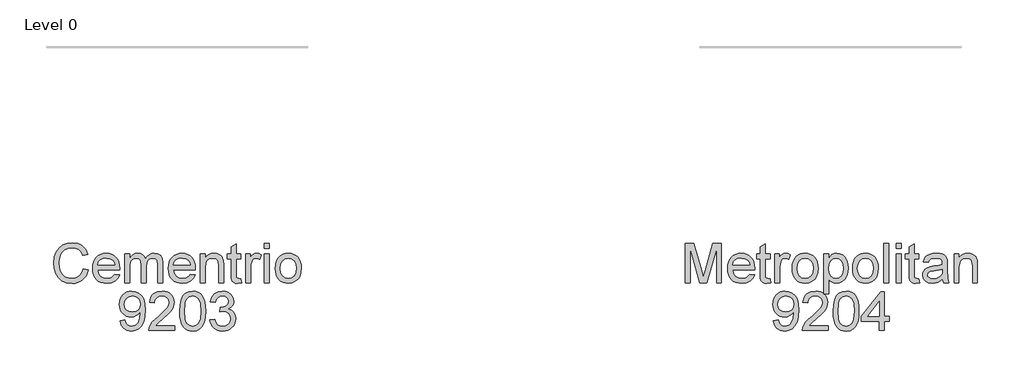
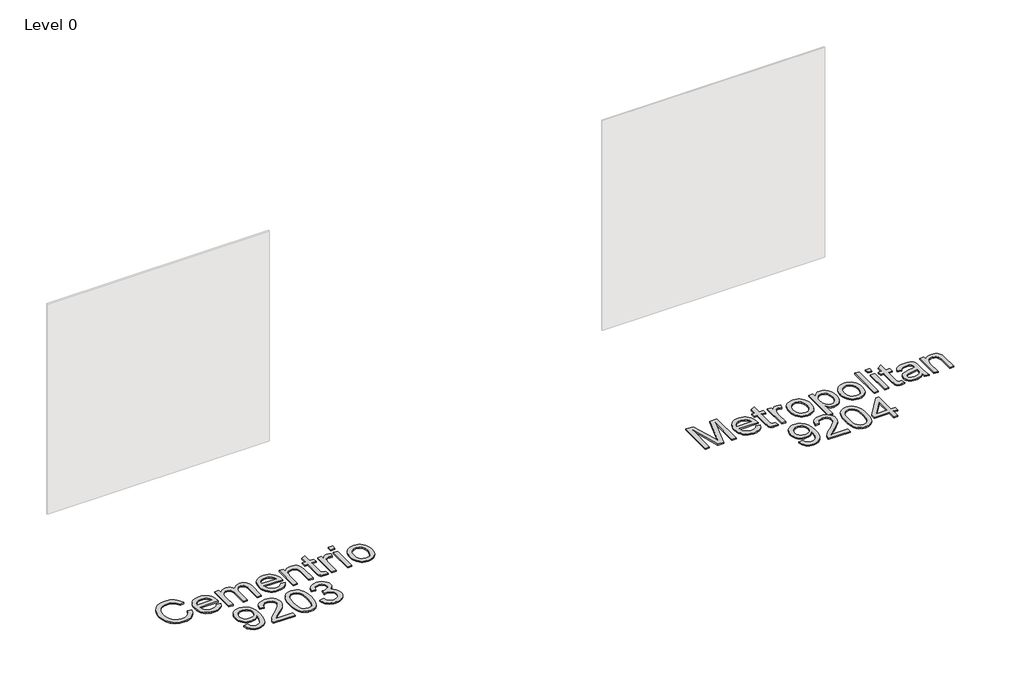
# One storey, part 6 of 8: 2 proxies.
"""IFC4 building model written with IfcOpenShell, lengths in millimetres."""

from ifc_helpers import new_model, si_unit, origin, origin_with_axes, place, context, project, spatial, polyline, outline, extrude, element, save

model = new_model("IFC4")

# Units and contexts
model_context = context("Model", 3, world=origin())
ifc_project = project(units=[si_unit("LENGTHUNIT", "METRE", prefix="MILLI")], contexts=[model_context])

# Site, building, storey
site = spatial("IfcSite", under=ifc_project)
building = spatial("IfcBuilding", under=site)
storey = spatial("IfcBuildingStorey", under=building, Name="Level 0", Elevation=0.0)

# Proxies
placement = place(None, origin())
element("IfcBuildingElementProxy", 1, Name="300mm Arial", ObjectType="300mm Arial", at=placement, inside=storey, context=model_context, shape_type="SweptSolid", body=[
    extrude(outline(polyline([(-168.7637109, -6895.733257), (-131.0925946, -6905.4453417), (-138.5468035, -6928.872527), (-148.4750189, -6949.3428607), (-160.8772406, -6966.856343), (-175.7534688, -6981.4129737), (-192.7680111, -6992.856403), (-211.5851751, -7001.0302811), (-232.204961, -7005.9346079), (-254.6273686, -7007.5693835), (-298.3225525, -7002.6213707), (-333.0230217, -6987.7773322), (-359.62089, -6963.5523028), (-379.0082711, -6930.4613173), (-390.8448743, -6891.5577963), (-394.7904087, -6849.8951604), (-390.3298395, -6805.9516561), (-376.948132, -6768.0046283), (-355.3442618, -6737.2588905), (-326.2172048, -6714.9192564), (-291.6730855, -6701.3168196), (-253.8180282, -6696.782674), (-212.5140772, -6702.6503918), (-194.545341, -6709.9850391), (-178.365431, -6720.2535453), (-164.2410616, -6733.1845974), (-152.4389474, -6748.5068825), (-135.8014841, -6786.3251516), (-173.4726004, -6795.3014723), (-186.5324113, -6767.8298843), (-204.374688, -6748.9851291), (-227.2201599, -6738.086625), (-255.2895562, -6734.4537903), (-287.6447776, -6738.4820981), (-314.2242518, -6750.5670217), (-334.3933822, -6769.439368), (-347.5175723, -6793.8299443), (-354.7188624, -6821.4026999), (-357.1192924, -6849.821584), (-354.277404, -6884.6232207), (-345.7517388, -6914.7159679), (-331.2204, -6938.9501944), (-310.3614908, -6956.1762688), (-285.3547122, -6966.4677676), (-258.3797649, -6969.8982672), (-226.9350514, -6965.2261659), (-200.7326563, -6951.2098619), (-180.949802, -6927.996508), (-168.7637109, -6895.733257)])), origin_with_axes(), (0.0, 0.0, 1.0), 10.0),
    extrude(outline(polyline([(70.9481972, -6936.9360404), (107.8835495, -6941.64493), (94.5754183, -6969.4752029), (73.3394301, -6990.2789297), (44.6538316, -7003.2467701), (8.9968692, -7007.5693835), (-14.3774331, -7005.7046817), (-35.2041525, -7000.1105761), (-53.4832892, -6990.7870668), (-69.214843, -6977.7341537), (-81.8653851, -6961.3151204), (-90.9014866, -6941.8932503), (-96.3231475, -6919.4685435), (-98.1303678, -6894.0409998), (-96.3047534, -6867.7512327), (-90.8279102, -6844.5792656), (-81.6998382, -6824.5250983), (-68.9205374, -6807.5887309), (-53.2303703, -6794.133447), (-35.3696994, -6784.5225298), (-15.3385248, -6778.7559796), (6.8631536, -6776.8337961), (28.3497614, -6778.751381), (47.7808285, -6784.5041357), (65.156355, -6794.0920602), (80.4763408, -6807.5151545), (92.9820294, -6824.4147337), (101.9146641, -6844.4321128), (107.2742449, -6867.5672917), (109.0607719, -6893.8202706), (108.8400427, -6903.9738137), (-60.4592515, -6903.9738137), (-53.9385431, -6932.1719686), (-38.791002, -6952.902119), (-16.9296144, -6965.6492302), (9.7326332, -6969.8982672), (29.7822019, -6967.9300985), (46.6679855, -6962.0255925), (60.3899839, -6951.8168672), (70.9481972, -6936.9360404)]), holes=[polyline([(-60.4592515, -6866.3026974), (71.3896556, -6866.3026974), (66.2944899, -6846.4002814), (56.3064938, -6832.1632482), (34.3439386, -6818.9194964), (6.7160008, -6814.5049125), (-18.6770539, -6818.0273826), (-39.6739188, -6828.5947929), (-54.2696369, -6845.0667092), (-60.4592515, -6866.3026974)])]), origin_with_axes(), (0.0, 0.0, 1.0), 10.0),
    extrude(outline(polyline([(146.7318882, -7002.860494), (146.7318882, -6781.5426857), (184.4030045, -6781.5426857), (184.4030045, -6817.9630032), (195.7337699, -6801.2335695), (210.3018969, -6788.1277734), (227.6107448, -6779.6572905), (247.1636729, -6776.8337961), (268.1145525, -6779.7124728), (284.9083656, -6788.3485026), (297.4531416, -6802.1716686), (305.6569101, -6820.6117536), (319.3881056, -6801.4588972), (335.0506815, -6787.7782855), (352.6446379, -6779.5699185), (372.1699748, -6776.8337961), (400.4876914, -6781.3863358), (421.429374, -6795.0439549), (434.3696232, -6818.1745354), (438.6830395, -6851.1459592), (438.6830395, -7002.860494), (401.0119232, -7002.860494), (401.0119232, -6867.332767), (397.5170443, -6835.8788564), (392.6058196, -6827.2060383), (384.8619036, -6820.3910244), (374.9014986, -6815.9764404), (363.3408069, -6814.5049125), (342.9325532, -6818.2757029), (326.29509, -6829.5880743), (315.231039, -6849.2145787), (311.543022, -6877.9277684), (311.543022, -7002.860494), (273.8719057, -7002.860494), (273.8719057, -6863.1389122), (271.6922049, -6841.8385447), (265.1531024, -6826.6450183), (253.647593, -6817.5399389), (236.5686714, -6814.5049125), (222.0557267, -6816.5282634), (208.6832162, -6822.5983163), (197.6467563, -6832.5679184), (190.1419636, -6846.2899168), (185.8377443, -6865.3278101), (184.4030045, -6891.2450966), (184.4030045, -7002.860494), (146.7318882, -7002.860494)])), origin_with_axes(), (0.0, 0.0, 1.0), 10.0),
    extrude(outline(polyline([(650.1416104, -6936.9360404), (687.0769627, -6941.64493), (673.7688315, -6969.4752029), (652.5328433, -6990.2789297), (623.8472448, -7003.2467701), (588.1902824, -7007.5693835), (564.8159801, -7005.7046817), (543.9892607, -7000.1105761), (525.710124, -6990.7870668), (509.9785702, -6977.7341537), (497.3280281, -6961.3151204), (488.2919266, -6941.8932503), (482.8702657, -6919.4685435), (481.0630454, -6894.0409998), (482.8886598, -6867.7512327), (488.365503, -6844.5792656), (497.493575, -6824.5250983), (510.2728758, -6807.5887309), (525.9630429, -6794.133447), (543.8237138, -6784.5225298), (563.8548884, -6778.7559796), (586.0565668, -6776.8337961), (607.5431746, -6778.751381), (626.9742417, -6784.5041357), (644.3497682, -6794.0920602), (659.669754, -6807.5151545), (672.1754426, -6824.4147337), (681.1080773, -6844.4321128), (686.4676581, -6867.5672917), (688.2541851, -6893.8202706), (688.0334559, -6903.9738137), (518.7341617, -6903.9738137), (525.2548701, -6932.1719686), (540.4024112, -6952.902119), (562.2637988, -6965.6492302), (588.9260464, -6969.8982672), (608.9756151, -6967.9300985), (625.8613987, -6962.0255925), (639.5833971, -6951.8168672), (650.1416104, -6936.9360404)]), holes=[polyline([(518.7341617, -6866.3026974), (650.5830688, -6866.3026974), (645.4879031, -6846.4002814), (635.499907, -6832.1632482), (613.5373519, -6818.9194964), (585.909414, -6814.5049125), (560.5163593, -6818.0273826), (539.5194944, -6828.5947929), (524.9237763, -6845.0667092), (518.7341617, -6866.3026974)])]), origin_with_axes(), (0.0, 0.0, 1.0), 10.0),
    extrude(outline(polyline([(725.9253014, -7002.860494), (725.9253014, -6781.5426857), (763.5964177, -6781.5426857), (763.5964177, -6812.4447733), (776.6838197, -6796.8649708), (792.4015779, -6785.7365404), (810.7496924, -6779.0594822), (831.7281632, -6776.8337961), (850.2970069, -6778.6272209), (867.3023521, -6784.0074951), (881.484203, -6792.303234), (891.5825638, -6802.8430532), (902.8765411, -6830.5445674), (904.8631038, -6866.964885), (904.8631038, -7002.860494), (867.1919875, -7002.860494), (867.1919875, -6872.0416565), (862.85098, -6838.7115477), (856.8453064, -6828.7879309), (847.5103008, -6821.0900002), (835.5449389, -6816.1511844), (821.6481965, -6814.5049125), (799.5844739, -6818.2021265), (780.7765069, -6829.2937687), (773.2602178, -6838.3482643), (767.89144, -6850.7228949), (763.5964177, -6885.4325611), (763.5964177, -7002.860494), (725.9253014, -7002.860494)])), origin_with_axes(), (0.0, 0.0, 1.0), 10.0),
    extrude(outline(polyline([(1036.7120109, -6971.4433716), (1041.4209004, -7003.96414), (1013.2411396, -7007.5693835), (995.1597395, -7006.005885), (981.6768644, -7001.3153896), (972.1487207, -6994.0865084), (965.931515, -6984.9078526), (962.5102125, -6969.1441091), (961.3697783, -6942.1599648), (961.3697783, -6819.213802), (933.1164411, -6819.213802), (933.1164411, -6781.5426857), (961.3697783, -6781.5426857), (961.3697783, -6727.758338), (999.0408946, -6705.6118419), (999.0408946, -6781.5426857), (1036.7120109, -6781.5426857), (1036.7120109, -6819.213802), (999.0408946, -6819.213802), (999.0408946, -6941.0563188), (1001.0274574, -6960.4804881), (1007.4653923, -6967.3598814), (1020.3044739, -6969.8982672), (1036.7120109, -6971.4433716)])), origin_with_axes(), (0.0, 0.0, 1.0), 10.0),
    extrude(outline(polyline([(1074.3831272, -7002.860494), (1074.3831272, -6781.5426857), (1107.345354, -6781.5426857), (1107.345354, -6814.2841833), (1119.522248, -6795.3014723), (1130.7426489, -6784.1178596), (1141.9998379, -6778.654812), (1154.2870966, -6776.8337961), (1173.0490783, -6779.7400639), (1192.1053657, -6788.4588672), (1179.5238014, -6822.2304343), (1166.2800496, -6816.4362929), (1153.0362978, -6814.5049125), (1141.7883058, -6816.3627165), (1131.7359303, -6821.9361288), (1123.6149352, -6830.8020848), (1118.1610846, -6842.5375205), (1113.5809538, -6863.5803706), (1112.0542435, -6886.5362071), (1112.0542435, -7002.860494), (1074.3831272, -7002.860494)])), origin_with_axes(), (0.0, 0.0, 1.0), 10.0),
    extrude(outline(polyline([(1215.6498134, -6739.1626798), (1215.6498134, -6701.4915635), (1253.3209297, -6701.4915635), (1253.3209297, -6739.1626798), (1215.6498134, -6739.1626798)])), origin_with_axes(), (0.0, 0.0, 1.0), 10.0),
    extrude(outline(polyline([(1215.6498134, -7002.860494), (1215.6498134, -6781.5426857), (1253.3209297, -6781.5426857), (1253.3209297, -7002.860494), (1215.6498134, -7002.860494)])), origin_with_axes(), (0.0, 0.0, 1.0), 10.0),
    extrude(outline(polyline([(1300.409825, -6892.2015898), (1302.4469716, -6863.5389839), (1308.5584112, -6838.8403064), (1318.744144, -6818.1055575), (1333.0041698, -6801.334737), (1347.3607647, -6790.6155754), (1363.2072816, -6782.9590314), (1380.5437206, -6778.3651049), (1399.3700817, -6776.8337961), (1420.1531152, -6778.698498), (1438.9449874, -6784.2926036), (1455.7456982, -6793.6161129), (1470.5552478, -6806.669026), (1482.6424706, -6823.0098843), (1491.2762012, -6842.1972296), (1496.4564395, -6864.2310619), (1498.1831857, -6889.1113811), (1495.1297651, -6927.1687735), (1485.9695034, -6956.1394806), (1470.9691151, -6977.8353213), (1450.3953145, -6994.0681143), (1425.9587529, -7004.1940662), (1399.3700817, -7007.5693835), (1378.2835456, -7005.7115794), (1359.3169295, -7000.1381672), (1342.4702334, -6990.8491468), (1327.7434573, -6977.8445183), (1315.7849932, -6961.3450108), (1307.2432331, -6941.5713536), (1302.1181771, -6918.5235466), (1300.409825, -6892.2015898)]), holes=[polyline([(1338.0809414, -6892.1280134), (1342.440343, -6926.2214773), (1355.5185479, -6950.5108861), (1375.2002347, -6965.0514219), (1399.3700817, -6969.8982672), (1423.4295642, -6965.0238308), (1443.0744628, -6950.4005215), (1456.1526677, -6925.789216), (1460.5120693, -6890.950791), (1456.1250766, -6857.8506085), (1442.9640982, -6833.8922936), (1423.2916085, -6819.3517577), (1399.3700817, -6814.5049125), (1375.2002347, -6819.3333636), (1355.5185479, -6833.8187172), (1342.440343, -6858.0529436), (1338.0809414, -6892.1280134)])]), origin_with_axes(), (0.0, 0.0, 1.0), 10.0),
    extrude(outline(polyline([(111.4152166, -7293.4427149), (149.0863329, -7288.7338254), (155.5242679, -7310.1169663), (166.0089047, -7324.6758963), (180.2827261, -7333.0360146), (198.0882147, -7335.8227207), (214.0634903, -7334.029296), (228.5856321, -7328.6490218), (240.6521615, -7320.2705094), (249.2606002, -7309.4823699), (261.5846471, -7276.7408723), (267.0293006, -7233.0364913), (266.8085714, -7225.6788514), (253.7579576, -7241.6081418), (236.679036, -7254.2264942), (216.8042112, -7262.4486568), (195.3658879, -7265.1893777), (177.4707281, -7263.5155146), (161.0149066, -7258.4939254), (145.9984234, -7250.12461), (132.4212786, -7238.4075684), (121.1709873, -7223.9544045), (113.135065, -7207.3767221), (108.3135116, -7188.6745212), (106.7063271, -7167.8478018), (108.3916865, -7146.326705), (113.4477647, -7127.0129003), (121.8745616, -7109.9063875), (133.6720773, -7095.0071667), (148.0079788, -7082.9360387), (164.0499331, -7074.3138045), (181.7979401, -7069.1404639), (201.2519999, -7067.4160171), (229.3489872, -7071.3523544), (254.925983, -7083.1613665), (276.318321, -7102.254442), (291.8613353, -7128.0429699), (301.3250996, -7163.6907352), (304.4796877, -7212.3615232), (301.3342966, -7263.96617), (291.8981235, -7303.8537754), (276.2539416, -7333.8269609), (254.4845246, -7355.6883485), (227.5279714, -7369.0424649), (196.3223811, -7373.4938371), (164.1143124, -7368.2423216), (138.4177551, -7352.4877751), (120.4467196, -7327.2234791), (111.4152166, -7293.4427149)]), holes=[polyline([(266.8085714, -7166.964885), (262.7434754, -7141.4338745), (250.5481872, -7121.788976), (231.6206586, -7109.262594), (207.358841, -7105.0871334), (182.1957125, -7109.5844908), (162.0357792, -7123.0765629), (148.7920273, -7143.7239399), (144.3774434, -7169.6872117), (148.552904, -7192.964945), (161.079286, -7211.4418182), (180.7425786, -7223.4991506), (206.3287714, -7227.5182614), (230.3974509, -7223.4991506), (249.775635, -7211.4418182), (262.5503373, -7192.2843633), (266.8085714, -7166.964885)])]), origin_with_axes(), (0.0, 0.0, 1.0), 10.0),
    extrude(outline(polyline([(530.5063855, -7331.1138312), (530.5063855, -7368.7849475), (332.7330249, -7368.7849475), (336.7797269, -7342.8124787), (346.0687473, -7322.5145896), (359.661987, -7302.8237058), (379.3252796, -7282.213117), (406.8244588, -7259.156113), (447.4754192, -7223.0484951), (471.8659955, -7196.3954446), (484.0612836, -7174.7639833), (488.1263797, -7153.7211331), (484.2912099, -7134.8579838), (472.7857005, -7119.1770138), (455.0997736, -7108.6096035), (432.7233512, -7105.0871334), (409.2248888, -7108.52683), (390.9687448, -7118.84592), (379.1873239, -7135.2350629), (375.1130308, -7156.8849183), (337.4419145, -7152.1760288), (346.574585, -7115.7373171), (355.1209436, -7101.2013798), (366.3206511, -7089.1210548), (379.9161901, -7079.6251008), (395.6500432, -7072.8422765), (433.5326916, -7067.4160171), (453.7225154, -7068.9243332), (471.6912516, -7073.4492818), (487.4389002, -7080.9908627), (500.9654613, -7091.549076), (511.8294765, -7104.3421723), (519.5894873, -7118.5884026), (524.2454938, -7134.2877667), (525.797496, -7151.4402648), (524.1236329, -7169.4572855), (519.1020437, -7187.1616065), (510.1901024, -7205.1694302), (496.845183, -7224.0969588), (475.5724066, -7246.6941104), (442.8768943, -7275.7108027), (399.5403953, -7311.9471793), (382.5442471, -7331.1138312), (530.5063855, -7331.1138312)])), origin_with_axes(), (0.0, 0.0, 1.0), 10.0),
    extrude(outline(polyline([(568.1775018, -7220.5285035), (570.9458139, -7172.2899768), (579.2507499, -7133.8187172), (593.0095365, -7104.5261133), (612.1394003, -7083.8235541), (636.7782969, -7071.5179013), (667.0641821, -7067.4160171), (690.277536, -7069.8440382), (711.0628688, -7077.1281017), (728.445293, -7088.983099), (741.4499216, -7105.1239216), (751.2723708, -7125.4126136), (759.1082573, -7149.7112194), (764.2402112, -7180.5673217), (765.9508625, -7220.5285035), (763.2101416, -7268.4911186), (754.987979, -7306.8704077), (741.3119658, -7336.1906027), (722.2096932, -7356.9759355), (697.5156143, -7369.3643617), (667.0641821, -7373.4938371), (646.3156376, -7371.7004123), (627.9215379, -7366.3201381), (611.8818829, -7357.3530145), (598.1966727, -7344.7990414), (585.0632854, -7322.1053209), (575.6822945, -7293.828991), (570.0537, -7259.9700519), (568.1775018, -7220.5285035)]), holes=[polyline([(605.8486182, -7220.4549271), (610.2632021, -7279.7115194), (615.781432, -7299.9795181), (623.5069539, -7314.0073184), (643.2254289, -7330.3688702), (667.0641821, -7335.8227207), (690.9029354, -7330.3504761), (710.6214104, -7313.933742), (718.3469323, -7299.8829491), (723.8651622, -7279.6195489), (728.2797461, -7220.4549271), (724.012315, -7162.5319069), (718.6780261, -7142.3305869), (711.2100216, -7127.9693935), (691.5283348, -7110.8076984), (666.6227238, -7105.0871334), (643.0414879, -7110.1271167), (624.0955651, -7125.2470667), (616.1125258, -7140.8820515), (610.4103549, -7161.9616898), (605.8486182, -7220.4549271)])]), origin_with_axes(), (0.0, 0.0, 1.0), 10.0),
    extrude(outline(polyline([(798.9130892, -7288.7338254), (836.5842055, -7284.0249358), (845.0179003, -7307.6981422), (857.3695383, -7323.6826149), (874.2461248, -7332.7876943), (896.2546651, -7335.8227207), (922.0799812, -7331.6472601), (942.0191853, -7319.1208782), (954.7662965, -7300.4324728), (959.0153335, -7277.7709419), (954.8030847, -7256.2590422), (942.1663381, -7238.8122386), (923.0364744, -7227.2515469), (899.3448739, -7223.397983), (872.9309467, -7227.5182614), (877.1248014, -7189.8471451), (883.1580661, -7190.2886035), (905.7276265, -7187.5846708), (925.905954, -7179.4728728), (940.1429872, -7165.7508744), (944.8886649, -7146.2163404), (941.4489683, -7129.9467592), (931.1298783, -7116.7489926), (915.3845289, -7108.0025982), (895.666054, -7105.0871334), (875.9107908, -7108.0301893), (859.7607712, -7116.8593572), (847.9701533, -7131.574637), (841.2930951, -7152.1760288), (803.6219788, -7147.4671392), (814.7136209, -7113.6403898), (834.45049, -7088.3852908), (861.4530284, -7072.6583355), (894.3416788, -7067.4160171), (918.0240822, -7070.0003881), (939.7751052, -7077.7535011), (958.1140226, -7089.9855775), (971.5601096, -7106.0068384), (979.8098633, -7124.4653175), (982.5597812, -7144.0090485), (979.947819, -7162.2192072), (972.1119325, -7178.7371088), (959.1624863, -7192.8085951), (941.209845, -7203.6795081), (964.7910808, -7213.2076518), (982.2654756, -7229.4312477), (993.0812063, -7251.4673793), (996.6864498, -7278.4331295), (994.8838281, -7297.5445992), (989.4759627, -7315.1477526), (980.4628538, -7331.2425899), (967.8445014, -7345.829111), (952.4716325, -7357.9324287), (935.1949743, -7366.5776555), (916.0145268, -7371.7647917), (894.93029, -7373.4938371), (875.8740026, -7372.0177105), (858.5099724, -7367.589331), (842.8381994, -7360.2086985), (828.8586836, -7349.875813), (817.1370436, -7337.1976797), (808.2388978, -7322.781304), (802.1642464, -7306.6266859), (798.9130892, -7288.7338254)])), origin_with_axes(), (0.0, 0.0, 1.0), 10.0),
])
element("IfcBuildingElementProxy", 2, Name="300mm Arial", ObjectType="300mm Arial", at=placement, inside=storey, context=model_context, shape_type="SweptSolid", body=[
    extrude(outline(polyline([(4435.6895679, -7002.860494), (4435.6895679, -6701.4915635), (4500.5103754, -6701.4915635), (4562.1673978, -6913.9066275), (4574.6018093, -6958.2731962), (4588.0662903, -6910.2278076), (4648.6932431, -6701.4915635), (4713.5140507, -6701.4915635), (4713.5140507, -7002.860494), (4675.8429343, -7002.860494), (4675.8429343, -6739.1626798), (4600.1328197, -7002.860494), (4549.0707988, -7002.860494), (4473.3606842, -6739.1626798), (4473.3606842, -7002.860494), (4435.6895679, -7002.860494)])), origin_with_axes(), (0.0, 0.0, 1.0), 10.0),
    extrude(outline(polyline([(4929.681511, -6936.9360404), (4966.6168633, -6941.64493), (4953.3087322, -6969.4752029), (4932.072744, -6990.2789297), (4903.3871454, -7003.2467701), (4867.730183, -7007.5693835), (4844.3558808, -7005.7046817), (4823.5291613, -7000.1105761), (4805.2500247, -6990.7870668), (4789.5184709, -6977.7341537), (4776.8679287, -6961.3151204), (4767.8318272, -6941.8932503), (4762.4101663, -6919.4685435), (4760.602946, -6894.0409998), (4762.4285604, -6867.7512327), (4767.9054036, -6844.5792656), (4777.0334756, -6824.5250983), (4789.8127765, -6807.5887309), (4805.5029435, -6794.133447), (4823.3636144, -6784.5225298), (4843.394789, -6778.7559796), (4865.5964675, -6776.8337961), (4887.0830752, -6778.751381), (4906.5141424, -6784.5041357), (4923.8896689, -6794.0920602), (4939.2096547, -6807.5151545), (4951.7153433, -6824.4147337), (4960.647978, -6844.4321128), (4966.0075588, -6867.5672917), (4967.7940857, -6893.8202706), (4967.5733565, -6903.9738137), (4798.2740623, -6903.9738137), (4804.7947707, -6932.1719686), (4819.9423119, -6952.902119), (4841.8036994, -6965.6492302), (4868.465947, -6969.8982672), (4888.5155158, -6967.9300985), (4905.4012993, -6962.0255925), (4919.1232978, -6951.8168672), (4929.681511, -6936.9360404)]), holes=[polyline([(4798.2740623, -6866.3026974), (4930.1229694, -6866.3026974), (4925.0278038, -6846.4002814), (4915.0398076, -6832.1632482), (4893.0772525, -6818.9194964), (4865.4493147, -6814.5049125), (4840.0562599, -6818.0273826), (4819.0593951, -6828.5947929), (4804.4636769, -6845.0667092), (4798.2740623, -6866.3026974)])]), origin_with_axes(), (0.0, 0.0, 1.0), 10.0),
    extrude(outline(polyline([(5085.5163242, -6971.4433716), (5090.2252137, -7003.96414), (5062.0454529, -7007.5693835), (5043.9640528, -7006.005885), (5030.4811777, -7001.3153896), (5020.953034, -6994.0865084), (5014.7358283, -6984.9078526), (5011.3145257, -6969.1441091), (5010.1740916, -6942.1599648), (5010.1740916, -6819.213802), (4981.9207543, -6819.213802), (4981.9207543, -6781.5426857), (5010.1740916, -6781.5426857), (5010.1740916, -6727.758338), (5047.8452079, -6705.6118419), (5047.8452079, -6781.5426857), (5085.5163242, -6781.5426857), (5085.5163242, -6819.213802), (5047.8452079, -6819.213802), (5047.8452079, -6941.0563188), (5049.8317706, -6960.4804881), (5056.2697056, -6967.3598814), (5069.1087872, -6969.8982672), (5085.5163242, -6971.4433716)])), origin_with_axes(), (0.0, 0.0, 1.0), 10.0),
    extrude(outline(polyline([(5123.1874405, -7002.860494), (5123.1874405, -6781.5426857), (5156.1496672, -6781.5426857), (5156.1496672, -6814.2841833), (5168.3265613, -6795.3014723), (5179.5469621, -6784.1178596), (5190.8041512, -6778.654812), (5203.0914098, -6776.8337961), (5221.8533916, -6779.7400639), (5240.9096789, -6788.4588672), (5228.3281147, -6822.2304343), (5215.0843629, -6816.4362929), (5201.840611, -6814.5049125), (5190.592619, -6816.3627165), (5180.5402435, -6821.9361288), (5172.4192485, -6830.8020848), (5166.9653979, -6842.5375205), (5162.3852671, -6863.5803706), (5160.8585568, -6886.5362071), (5160.8585568, -7002.860494), (5123.1874405, -7002.860494)])), origin_with_axes(), (0.0, 0.0, 1.0), 10.0),
    extrude(outline(polyline([(5255.0363476, -6892.2015898), (5257.0734941, -6863.5389839), (5263.1849337, -6838.8403064), (5273.3706665, -6818.1055575), (5287.6306923, -6801.334737), (5301.9872872, -6790.6155754), (5317.8338041, -6782.9590314), (5335.1702432, -6778.3651049), (5353.9966043, -6776.8337961), (5374.7796377, -6778.698498), (5393.5715099, -6784.2926036), (5410.3722208, -6793.6161129), (5425.1817703, -6806.669026), (5437.2689931, -6823.0098843), (5445.9027237, -6842.1972296), (5451.082962, -6864.2310619), (5452.8097082, -6889.1113811), (5449.7562876, -6927.1687735), (5440.5960259, -6956.1394806), (5425.5956376, -6977.8353213), (5405.021837, -6994.0681143), (5380.5852755, -7004.1940662), (5353.9966043, -7007.5693835), (5332.9100681, -7005.7115794), (5313.943452, -7000.1381672), (5297.0967559, -6990.8491468), (5282.3699798, -6977.8445183), (5270.4115157, -6961.3450108), (5261.8697556, -6941.5713536), (5256.7446996, -6918.5235466), (5255.0363476, -6892.2015898)]), holes=[polyline([(5292.7074639, -6892.1280134), (5297.0668655, -6926.2214773), (5310.1450704, -6950.5108861), (5329.8267572, -6965.0514219), (5353.9966043, -6969.8982672), (5378.0560867, -6965.0238308), (5397.7009853, -6950.4005215), (5410.7791902, -6925.789216), (5415.1385919, -6890.950791), (5410.7515991, -6857.8506085), (5397.5906207, -6833.8922936), (5377.918131, -6819.3517577), (5353.9966043, -6814.5049125), (5329.8267572, -6819.3333636), (5310.1450704, -6833.8187172), (5297.0668655, -6858.0529436), (5292.7074639, -6892.1280134)])]), origin_with_axes(), (0.0, 0.0, 1.0), 10.0),
    extrude(outline(polyline([(5495.189714, -7087.6205057), (5495.189714, -6781.5426857), (5532.8608303, -6781.5426857), (5532.8608303, -6818.478038), (5545.1480889, -6800.2586822), (5558.9068756, -6787.2448566), (5574.9465306, -6779.4365613), (5594.0763943, -6776.8337961), (5619.5522225, -6780.4758279), (5641.8274773, -6791.4019232), (5659.9640596, -6808.9498943), (5673.0238705, -6832.4575538), (5680.9149393, -6860.2142504), (5683.5452955, -6890.5093327), (5680.5746484, -6922.7265984), (5671.6627071, -6951.5409557), (5657.0945801, -6975.4900735), (5637.1553759, -6993.1116211), (5613.932825, -7003.9549429), (5589.5146576, -7007.5693835), (5572.1966126, -7005.1505594), (5556.7363718, -6997.894087), (5543.501817, -6986.9404006), (5532.8608303, -6973.4299344), (5532.8608303, -7087.6205057), (5495.189714, -7087.6205057)]), holes=[polyline([(5532.8608303, -6893.9674234), (5536.9351234, -6927.7389906), (5549.1580027, -6951.3570147), (5567.1934175, -6965.2629541), (5588.7053172, -6969.8982672), (5610.5667047, -6965.0974072), (5629.061972, -6950.6948271), (5641.6711274, -6926.2122803), (5645.8741792, -6891.1715202), (5641.772295, -6857.5838941), (5629.4666422, -6833.6347762), (5611.4588186, -6819.2873784), (5590.2504216, -6814.5049125), (5568.9592511, -6819.590881), (5550.2616487, -6834.8487868), (5537.2110349, -6859.8003831), (5532.8608303, -6893.9674234)])]), origin_with_axes(), (0.0, 0.0, 1.0), 10.0),
    extrude(outline(polyline([(5716.5075223, -6892.2015898), (5718.5446688, -6863.5389839), (5724.6561085, -6838.8403064), (5734.8418412, -6818.1055575), (5749.1018671, -6801.334737), (5763.4584619, -6790.6155754), (5779.3049789, -6782.9590314), (5796.6414179, -6778.3651049), (5815.467779, -6776.8337961), (5836.2508125, -6778.698498), (5855.0426846, -6784.2926036), (5871.8433955, -6793.6161129), (5886.6529451, -6806.669026), (5898.7401679, -6823.0098843), (5907.3738984, -6842.1972296), (5912.5541368, -6864.2310619), (5914.2808829, -6889.1113811), (5911.2274623, -6927.1687735), (5902.0672007, -6956.1394806), (5887.0668123, -6977.8353213), (5866.4930117, -6994.0681143), (5842.0564502, -7004.1940662), (5815.467779, -7007.5693835), (5794.3812429, -7005.7115794), (5775.4146268, -7000.1381672), (5758.5679307, -6990.8491468), (5743.8411545, -6977.8445183), (5731.8826904, -6961.3450108), (5723.3409304, -6941.5713536), (5718.2158743, -6918.5235466), (5716.5075223, -6892.2015898)]), holes=[polyline([(5754.1786386, -6892.1280134), (5758.5380403, -6926.2214773), (5771.6162452, -6950.5108861), (5791.2979319, -6965.0514219), (5815.467779, -6969.8982672), (5839.5272615, -6965.0238308), (5859.17216, -6950.4005215), (5872.250365, -6925.789216), (5876.6097666, -6890.950791), (5872.2227738, -6857.8506085), (5859.0617954, -6833.8922936), (5839.3893057, -6819.3517577), (5815.467779, -6814.5049125), (5791.2979319, -6819.3333636), (5771.6162452, -6833.8187172), (5758.5380403, -6858.0529436), (5754.1786386, -6892.1280134)])]), origin_with_axes(), (0.0, 0.0, 1.0), 10.0),
    extrude(outline(polyline([(5956.6608888, -7002.860494), (5956.6608888, -6701.4915635), (5994.3320051, -6701.4915635), (5994.3320051, -7002.860494), (5956.6608888, -7002.860494)])), origin_with_axes(), (0.0, 0.0, 1.0), 10.0),
    extrude(outline(polyline([(6050.8386795, -6739.1626798), (6050.8386795, -6701.4915635), (6088.5097958, -6701.4915635), (6088.5097958, -6739.1626798), (6050.8386795, -6739.1626798)])), origin_with_axes(), (0.0, 0.0, 1.0), 10.0),
    extrude(outline(polyline([(6050.8386795, -7002.860494), (6050.8386795, -6781.5426857), (6088.5097958, -6781.5426857), (6088.5097958, -7002.860494), (6050.8386795, -7002.860494)])), origin_with_axes(), (0.0, 0.0, 1.0), 10.0),
    extrude(outline(polyline([(6225.0675924, -6971.4433716), (6229.776482, -7003.96414), (6201.5967211, -7007.5693835), (6183.5153211, -7006.005885), (6170.032446, -7001.3153896), (6160.5043023, -6994.0865084), (6154.2870966, -6984.9078526), (6150.865794, -6969.1441091), (6149.7253598, -6942.1599648), (6149.7253598, -6819.213802), (6121.4720226, -6819.213802), (6121.4720226, -6781.5426857), (6149.7253598, -6781.5426857), (6149.7253598, -6727.758338), (6187.3964761, -6705.6118419), (6187.3964761, -6781.5426857), (6225.0675924, -6781.5426857), (6225.0675924, -6819.213802), (6187.3964761, -6819.213802), (6187.3964761, -6941.0563188), (6189.3830389, -6960.4804881), (6195.8209738, -6967.3598814), (6208.6600554, -6969.8982672), (6225.0675924, -6971.4433716)])), origin_with_axes(), (0.0, 0.0, 1.0), 10.0),
    extrude(outline(polyline([(6404.0053949, -6974.6071568), (6386.0067683, -6990.0398064), (6367.4747128, -7000.1381672), (6347.9861641, -7005.7115794), (6327.1180579, -7007.5693835), (6295.6365562, -7003.0996173), (6272.4140052, -6989.6903186), (6258.0941986, -6969.3280501), (6253.3209297, -6943.9993748), (6255.1235514, -6928.3827841), (6260.5314168, -6914.2009331), (6268.873141, -6902.0608273), (6279.4773395, -6892.5694718), (6305.8544786, -6880.2086368), (6338.4488233, -6874.5432541), (6376.9660682, -6868.5835657), (6403.7846657, -6861.5938078), (6404.0053949, -6853.2060983), (6401.4118268, -6836.3938912), (6393.6311226, -6825.3942195), (6376.2303043, -6817.2272392), (6351.9868808, -6814.5049125), (6329.5460791, -6816.3167313), (6313.8743061, -6821.7521878), (6303.1873341, -6831.8045633), (6295.7009355, -6847.4671392), (6258.0298192, -6842.7582497), (6264.5689217, -6822.156858), (6274.3269916, -6805.9700502), (6288.2145369, -6793.590821), (6307.1420656, -6784.4121652), (6330.2910401, -6778.7283884), (6356.8429231, -6776.8337961), (6382.3095542, -6778.5076592), (6402.4970787, -6783.5292485), (6417.7181963, -6791.0800264), (6428.2856066, -6800.3414556), (6435.2937586, -6811.7917827), (6439.8371012, -6825.9092543), (6441.6765112, -6858.8714811), (6441.6765112, -6905.7396473), (6443.5894976, -6971.1858542), (6451.0942903, -7002.860494), (6413.423174, -7002.860494), (6404.0053949, -6974.6071568)]), holes=[polyline([(6404.0053949, -6899.2649241), (6343.2312893, -6910.8164188), (6310.8208855, -6916.9232599), (6296.1423939, -6926.8560738), (6290.992046, -6941.3506244), (6293.7971462, -6952.5526311), (6302.2124468, -6961.7312869), (6316.0540069, -6967.8565221), (6335.1378854, -6969.8982672), (6355.3713951, -6967.64499), (6373.2504601, -6960.8851583), (6387.7450107, -6950.9247533), (6397.8249774, -6939.069756), (6402.2947436, -6926.8560738), (6403.7846657, -6909.933502), (6404.0053949, -6899.2649241)])]), origin_with_axes(), (0.0, 0.0, 1.0), 10.0),
    extrude(outline(polyline([(6493.4742961, -7002.860494), (6493.4742961, -6781.5426857), (6531.1454124, -6781.5426857), (6531.1454124, -6812.4447733), (6544.2328144, -6796.8649708), (6559.9505726, -6785.7365404), (6578.2986872, -6779.0594822), (6599.2771579, -6776.8337961), (6617.8460016, -6778.6272209), (6634.8513469, -6784.0074951), (6649.0331978, -6792.303234), (6659.1315585, -6802.8430532), (6670.4255358, -6830.5445674), (6672.4120986, -6866.964885), (6672.4120986, -7002.860494), (6634.7409823, -7002.860494), (6634.7409823, -6872.0416565), (6630.3999747, -6838.7115477), (6624.3943011, -6828.7879309), (6615.0592955, -6821.0900002), (6603.0939336, -6816.1511844), (6589.1971913, -6814.5049125), (6567.1334686, -6818.2021265), (6548.3255016, -6829.2937687), (6540.8092126, -6838.3482643), (6535.4404347, -6850.7228949), (6531.1454124, -6885.4325611), (6531.1454124, -7002.860494), (6493.4742961, -7002.860494)])), origin_with_axes(), (0.0, 0.0, 1.0), 10.0),
    extrude(outline(polyline([(5111.4152166, -7293.4427149), (5149.0863329, -7288.7338254), (5155.5242679, -7310.1169663), (5166.0089047, -7324.6758963), (5180.2827261, -7333.0360146), (5198.0882147, -7335.8227207), (5214.0634903, -7334.029296), (5228.5856321, -7328.6490218), (5240.6521615, -7320.2705094), (5249.2606002, -7309.4823699), (5261.5846471, -7276.7408723), (5267.0293006, -7233.0364913), (5266.8085714, -7225.6788514), (5253.7579576, -7241.6081418), (5236.679036, -7254.2264942), (5216.8042112, -7262.4486568), (5195.3658879, -7265.1893777), (5177.4707281, -7263.5155146), (5161.0149066, -7258.4939254), (5145.9984234, -7250.12461), (5132.4212786, -7238.4075684), (5121.1709873, -7223.9544045), (5113.135065, -7207.3767221), (5108.3135116, -7188.6745212), (5106.7063271, -7167.8478018), (5108.3916865, -7146.326705), (5113.4477647, -7127.0129003), (5121.8745616, -7109.9063875), (5133.6720773, -7095.0071667), (5148.0079788, -7082.9360387), (5164.0499331, -7074.3138045), (5181.7979401, -7069.1404639), (5201.2519999, -7067.4160171), (5229.3489872, -7071.3523544), (5254.925983, -7083.1613665), (5276.318321, -7102.254442), (5291.8613353, -7128.0429699), (5301.3250996, -7163.6907352), (5304.4796877, -7212.3615232), (5301.3342966, -7263.96617), (5291.8981235, -7303.8537754), (5276.2539416, -7333.8269609), (5254.4845246, -7355.6883485), (5227.5279714, -7369.0424649), (5196.3223811, -7373.4938371), (5164.1143124, -7368.2423216), (5138.4177551, -7352.4877751), (5120.4467196, -7327.2234791), (5111.4152166, -7293.4427149)]), holes=[polyline([(5266.8085714, -7166.964885), (5262.7434754, -7141.4338745), (5250.5481872, -7121.788976), (5231.6206586, -7109.262594), (5207.358841, -7105.0871334), (5182.1957125, -7109.5844908), (5162.0357792, -7123.0765629), (5148.7920273, -7143.7239399), (5144.3774434, -7169.6872117), (5148.552904, -7192.964945), (5161.079286, -7211.4418182), (5180.7425786, -7223.4991506), (5206.3287714, -7227.5182614), (5230.3974509, -7223.4991506), (5249.775635, -7211.4418182), (5262.5503373, -7192.2843633), (5266.8085714, -7166.964885)])]), origin_with_axes(), (0.0, 0.0, 1.0), 10.0),
    extrude(outline(polyline([(5530.5063855, -7331.1138312), (5530.5063855, -7368.7849475), (5332.7330249, -7368.7849475), (5336.7797269, -7342.8124787), (5346.0687473, -7322.5145896), (5359.661987, -7302.8237058), (5379.3252796, -7282.213117), (5406.8244588, -7259.156113), (5447.4754192, -7223.0484951), (5471.8659955, -7196.3954446), (5484.0612836, -7174.7639833), (5488.1263797, -7153.7211331), (5484.2912099, -7134.8579838), (5472.7857005, -7119.1770138), (5455.0997736, -7108.6096035), (5432.7233512, -7105.0871334), (5409.2248888, -7108.52683), (5390.9687448, -7118.84592), (5379.1873239, -7135.2350629), (5375.1130308, -7156.8849183), (5337.4419145, -7152.1760288), (5346.574585, -7115.7373171), (5355.1209436, -7101.2013798), (5366.3206511, -7089.1210548), (5379.9161901, -7079.6251008), (5395.6500432, -7072.8422765), (5433.5326916, -7067.4160171), (5453.7225154, -7068.9243332), (5471.6912516, -7073.4492818), (5487.4389002, -7080.9908627), (5500.9654613, -7091.549076), (5511.8294765, -7104.3421723), (5519.5894873, -7118.5884026), (5524.2454938, -7134.2877667), (5525.797496, -7151.4402648), (5524.1236329, -7169.4572855), (5519.1020437, -7187.1616065), (5510.1901024, -7205.1694302), (5496.845183, -7224.0969588), (5475.5724066, -7246.6941104), (5442.8768943, -7275.7108027), (5399.5403953, -7311.9471793), (5382.5442471, -7331.1138312), (5530.5063855, -7331.1138312)])), origin_with_axes(), (0.0, 0.0, 1.0), 10.0),
    extrude(outline(polyline([(5568.1775018, -7220.5285035), (5570.9458139, -7172.2899768), (5579.2507499, -7133.8187172), (5593.0095365, -7104.5261133), (5612.1394003, -7083.8235541), (5636.7782969, -7071.5179013), (5667.0641821, -7067.4160171), (5690.277536, -7069.8440382), (5711.0628688, -7077.1281017), (5728.445293, -7088.983099), (5741.4499216, -7105.1239216), (5751.2723708, -7125.4126136), (5759.1082573, -7149.7112194), (5764.2402112, -7180.5673217), (5765.9508625, -7220.5285035), (5763.2101416, -7268.4911186), (5754.987979, -7306.8704077), (5741.3119658, -7336.1906027), (5722.2096932, -7356.9759355), (5697.5156143, -7369.3643617), (5667.0641821, -7373.4938371), (5646.3156376, -7371.7004123), (5627.9215379, -7366.3201381), (5611.8818829, -7357.3530145), (5598.1966727, -7344.7990414), (5585.0632854, -7322.1053209), (5575.6822945, -7293.828991), (5570.0537, -7259.9700519), (5568.1775018, -7220.5285035)]), holes=[polyline([(5605.8486182, -7220.4549271), (5610.2632021, -7279.7115194), (5615.781432, -7299.9795181), (5623.5069539, -7314.0073184), (5643.2254289, -7330.3688702), (5667.0641821, -7335.8227207), (5690.9029354, -7330.3504761), (5710.6214104, -7313.933742), (5718.3469323, -7299.8829491), (5723.8651622, -7279.6195489), (5728.2797461, -7220.4549271), (5724.012315, -7162.5319069), (5718.6780261, -7142.3305869), (5711.2100216, -7127.9693935), (5691.5283348, -7110.8076984), (5666.6227238, -7105.0871334), (5643.0414879, -7110.1271167), (5624.0955651, -7125.2470667), (5616.1125258, -7140.8820515), (5610.4103549, -7161.9616898), (5605.8486182, -7220.4549271)])]), origin_with_axes(), (0.0, 0.0, 1.0), 10.0),
    extrude(outline(polyline([(5921.3442172, -7368.7849475), (5921.3442172, -7298.1516044), (5784.7864206, -7298.1516044), (5784.7864206, -7260.4804881), (5930.7619963, -7072.1249066), (5959.0153335, -7072.1249066), (5959.0153335, -7260.4804881), (5996.6864498, -7260.4804881), (5996.6864498, -7298.1516044), (5959.0153335, -7298.1516044), (5959.0153335, -7368.7849475), (5921.3442172, -7368.7849475)]), holes=[polyline([(5921.3442172, -7260.4804881), (5921.3442172, -7144.0826249), (5831.139552, -7260.4804881), (5921.3442172, -7260.4804881)])]), origin_with_axes(), (0.0, 0.0, 1.0), 10.0),
])

save(model, "model.ifc")
